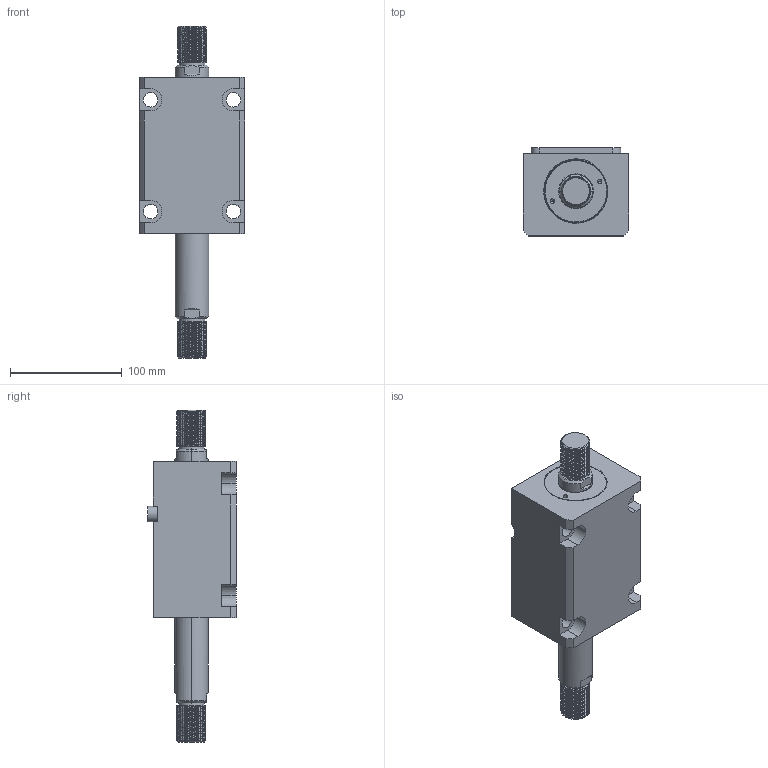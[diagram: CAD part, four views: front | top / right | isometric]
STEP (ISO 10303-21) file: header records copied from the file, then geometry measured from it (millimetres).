
FILE_DESCRIPTION (( 'STEP AP203' ), '1' );
FILE_NAME ('CHTB-LWM50-65W.STEP', '2018-05-22T07:32:02', ( '' ), ( '' ), 'SwSTEP 2.0', 'SolidWorks 2015', '' );
FILE_SCHEMA (( 'CONFIG_CONTROL_DESIGN' ));
Length unit declared in the file: millimetre
Products named in the file (4): 活塞杆LWM50-65W; CHTB-LWM50-65W; CHTM-SDMA50QG; 掛极LWM50-60W
Assembly tree (3 placements, depth 2):
  CHTB-LWM50-65W
    掛极LWM50-60W
    活塞杆LWM50-65W
    CHTM-SDMA50QG
Bounding box: 94 x 79 x 297 mm (x, y, z)
Volume: 934055.1 mm3; surface area: 143772.4 mm2
Topology: 3 solids, 3 shells, 302 faces, 837 edges, 557 vertices
Faces by surface type: cylinder 188, plane 62, cone 18, bspline 18, torus 16
Entity records: 19248 total; most frequent: CARTESIAN_POINT 11864, ORIENTED_EDGE 1666, DIRECTION 1265, EDGE_CURVE 833, VERTEX_POINT 557, AXIS2_PLACEMENT_3D 483, EDGE_LOOP 338, FACE_OUTER_BOUND 302
